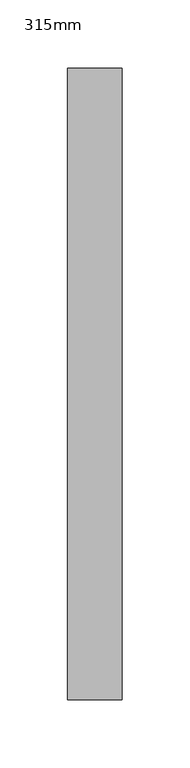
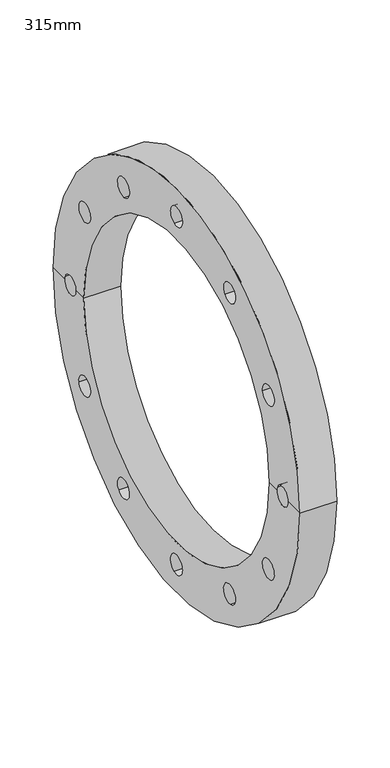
"""IFC4 building model written with IfcOpenShell, lengths in millimetres: pipe fitting geometry, Durapipe_PipeFitting_PVC_BackingFlange : 315mm."""

from ifc_helpers import new_model, si_unit, frame, origin, place, context, project, spatial, polyline, circle_curve, source, transform, mapped, element, save
from ifc_brep_helpers import plane_surface, cylinder_surface, revolved_surface, advanced_brep


def pipe_fitting_315mm_d6d34c67(model_context):
    return source(origin(), model_context, "Body", "AdvancedBrep", [
        advanced_brep(
        [(-20.0, 232.5, 0.0), (20.0, 232.5, 0.0), (20.0, -232.5, 0.0), (-20.0, -232.5, 0.0), (-20.0, -210.6997363, 0.0), (-20.0, -209.8610974, -4.2874372), (-20.0, -188.7002361, 0.0), (-20.0, -174.5, 0.0), (-20.0, 174.5, 0.0), (-20.0, 188.7002361, 0.0), (-20.0, 189.538875, -4.1391443), (-20.0, 210.6997363, 0.0), (-20.0, 4.2874372, -209.8610974), (-20.0, -4.1391443, -189.538875), (-20.0, 108.6435782, -179.6013231), (-20.0, 91.1848334, -166.215053), (-20.0, -101.2175192, -183.8887602), (-20.0, -98.3540417, -162.0759086), (-20.0, 183.8887602, -101.2175192), (-20.0, 162.0759086, -98.3540417), (-20.0, -179.6013231, -108.6435782), (-20.0, -166.215053, -91.1848334), (-20.0, 209.8610974, 4.2874372), (-20.0, -189.538875, 4.1391443), (-20.0, 179.6013231, 108.6435782), (-20.0, 166.215053, 91.1848334), (-20.0, 101.2175192, 183.8887602), (-20.0, 98.3540417, 162.0759086), (-20.0, -4.2874372, 209.8610974), (-20.0, 4.1391443, 189.538875), (-20.0, -108.6435782, 179.6013231), (-20.0, -91.1848334, 166.215053), (-20.0, -183.8887602, 101.2175192), (-20.0, -162.0759086, 98.3540417), (20.0, 174.5, 0.0), (20.0, -174.5, 0.0), (20.0, -188.7002361, 0.0), (20.0, -209.8610974, -4.2874372), (20.0, -210.6997363, 0.0), (20.0, 210.6997363, 0.0), (20.0, 189.538875, -4.1391443), (20.0, 188.7002361, 0.0), (20.0, -4.1391443, -189.538875), (20.0, 4.2874372, -209.8610974), (20.0, 91.1848334, -166.215053), (20.0, 108.6435782, -179.6013231), (20.0, -98.3540417, -162.0759086), (20.0, -101.2175192, -183.8887602), (20.0, 162.0759086, -98.3540417), (20.0, 183.8887602, -101.2175192), (20.0, -166.215053, -91.1848334), (20.0, -179.6013231, -108.6435782), (20.0, 209.8610974, 4.2874372), (20.0, -189.538875, 4.1391443), (20.0, 166.215053, 91.1848334), (20.0, 179.6013231, 108.6435782), (20.0, 98.3540417, 162.0759086), (20.0, 101.2175192, 183.8887602), (20.0, 4.1391443, 189.538875), (20.0, -4.2874372, 209.8610974), (20.0, -91.1848334, 166.215053), (20.0, -108.6435782, 179.6013231), (20.0, -162.0759086, 98.3540417), (20.0, -183.8887602, 101.2175192)],
        [
            (0, 1),
            (1, 2, circle_curve(frame((20.0, 0.0, 0.0), z_axis=(-1.0, 0.0, 0.0), x_axis=(0.0, 1.0, 0.0)), 232.5)),
            (2, 3),
            (3, 0, circle_curve(frame((-20.0, 0.0, 0.0), z_axis=(1.0, 0.0, 0.0), x_axis=(0.0, 1.0, 0.0)), 232.5)),
            (0, 3, circle_curve(frame((-20.0, 0.0, 0.0), z_axis=(1.0, 0.0, 0.0), x_axis=(0.0, 1.0, 0.0)), 232.5)),
            (2, 1, circle_curve(frame((20.0, 0.0, 0.0), z_axis=(-1.0, 0.0, 0.0), x_axis=(0.0, 1.0, 0.0)), 232.5)),
            (3, 4),
            (4, 5, circle_curve(frame((-20.0, -199.6999862, -0.0741464), z_axis=(1.0, 0.0, 0.0), x_axis=(0.0, -0.9237373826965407, -0.38302643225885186)), 11.0)),
            (5, 6, circle_curve(frame((-20.0, -199.6999862, -0.0741464), z_axis=(1.0, 0.0, 0.0), x_axis=(0.0, -0.9237373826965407, -0.38302643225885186)), 11.0)),
            (6, 7),
            (7, 8, circle_curve(frame((-20.0, 0.0, 0.0), z_axis=(1.0, 0.0, 0.0), x_axis=(0.0, 1.0, 0.0)), 174.5)),
            (8, 9),
            (9, 10, circle_curve(frame((-20.0, 199.6999862, 0.0741464), z_axis=(1.0, 0.0, 0.0), x_axis=(0.0, 0.9237373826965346, 0.3830264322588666)), 11.0)),
            (10, 11, circle_curve(frame((-20.0, 199.6999862, 0.0741464), z_axis=(1.0, 0.0, 0.0), x_axis=(0.0, 0.9237373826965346, 0.3830264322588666)), 11.0)),
            (11, 0),
            (12, 13, circle_curve(frame((-20.0, 0.0741464, -199.6999862), z_axis=(1.0, 0.0, 0.0), x_axis=(0.0, 0.3830264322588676, -0.9237373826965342)), 11.0)),
            (13, 12, circle_curve(frame((-20.0, 0.0741464, -199.6999862), z_axis=(1.0, 0.0, 0.0), x_axis=(0.0, 0.3830264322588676, -0.9237373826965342)), 11.0)),
            (14, 15, circle_curve(frame((-20.0, 99.9142058, -172.908188), z_axis=(1.0, 0.0, 0.0), x_axis=(0.0, 0.7935793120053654, -0.6084668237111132)), 11.0)),
            (15, 14, circle_curve(frame((-20.0, 99.9142058, -172.908188), z_axis=(1.0, 0.0, 0.0), x_axis=(0.0, 0.7935793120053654, -0.6084668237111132)), 11.0)),
            (16, 17, circle_curve(frame((-20.0, -99.7857804, -172.9823344), z_axis=(1.0, 0.0, 0.0), x_axis=(0.0, -0.13015807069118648, -0.991493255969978)), 11.0)),
            (17, 16, circle_curve(frame((-20.0, -99.7857804, -172.9823344), z_axis=(1.0, 0.0, 0.0), x_axis=(0.0, -0.13015807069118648, -0.991493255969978)), 11.0)),
            (18, 19, circle_curve(frame((-20.0, 172.9823344, -99.7857804), z_axis=(1.0, 0.0, 0.0), x_axis=(0.0, 0.9914932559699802, -0.13015807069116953)), 11.0)),
            (19, 18, circle_curve(frame((-20.0, 172.9823344, -99.7857804), z_axis=(1.0, 0.0, 0.0), x_axis=(0.0, 0.9914932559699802, -0.13015807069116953)), 11.0)),
            (20, 21, circle_curve(frame((-20.0, -172.908188, -99.9142058), z_axis=(1.0, 0.0, 0.0), x_axis=(0.0, -0.6084668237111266, -0.7935793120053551)), 11.0)),
            (21, 20, circle_curve(frame((-20.0, -172.908188, -99.9142058), z_axis=(1.0, 0.0, 0.0), x_axis=(0.0, -0.6084668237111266, -0.7935793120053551)), 11.0)),
            (11, 22, circle_curve(frame((-20.0, 199.6999862, 0.0741464), z_axis=(1.0, 0.0, 0.0), x_axis=(0.0, 0.9237373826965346, 0.3830264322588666)), 11.0)),
            (22, 9, circle_curve(frame((-20.0, 199.6999862, 0.0741464), z_axis=(1.0, 0.0, 0.0), x_axis=(0.0, 0.9237373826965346, 0.3830264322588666)), 11.0)),
            (8, 7, circle_curve(frame((-20.0, 0.0, 0.0), z_axis=(1.0, 0.0, 0.0), x_axis=(0.0, 1.0, 0.0)), 174.5)),
            (6, 23, circle_curve(frame((-20.0, -199.6999862, -0.0741464), z_axis=(1.0, 0.0, 0.0), x_axis=(0.0, -0.9237373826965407, -0.38302643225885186)), 11.0)),
            (23, 4, circle_curve(frame((-20.0, -199.6999862, -0.0741464), z_axis=(1.0, 0.0, 0.0), x_axis=(0.0, -0.9237373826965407, -0.38302643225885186)), 11.0)),
            (24, 25, circle_curve(frame((-20.0, 172.908188, 99.9142058), z_axis=(1.0, 0.0, 0.0), x_axis=(0.0, 0.6084668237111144, 0.7935793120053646)), 11.0)),
            (25, 24, circle_curve(frame((-20.0, 172.908188, 99.9142058), z_axis=(1.0, 0.0, 0.0), x_axis=(0.0, 0.6084668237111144, 0.7935793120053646)), 11.0)),
            (26, 27, circle_curve(frame((-20.0, 99.7857804, 172.9823344), z_axis=(1.0, 0.0, 0.0), x_axis=(0.0, 0.1301580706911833, 0.9914932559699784)), 11.0)),
            (27, 26, circle_curve(frame((-20.0, 99.7857804, 172.9823344), z_axis=(1.0, 0.0, 0.0), x_axis=(0.0, 0.1301580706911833, 0.9914932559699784)), 11.0)),
            (28, 29, circle_curve(frame((-20.0, -0.0741464, 199.6999862), z_axis=(1.0, 0.0, 0.0), x_axis=(0.0, -0.3830264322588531, 0.9237373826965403)), 11.0)),
            (29, 28, circle_curve(frame((-20.0, -0.0741464, 199.6999862), z_axis=(1.0, 0.0, 0.0), x_axis=(0.0, -0.3830264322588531, 0.9237373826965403)), 11.0)),
            (30, 31, circle_curve(frame((-20.0, -99.9142058, 172.908188), z_axis=(1.0, 0.0, 0.0), x_axis=(0.0, -0.7935793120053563, 0.6084668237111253)), 11.0)),
            (31, 30, circle_curve(frame((-20.0, -99.9142058, 172.908188), z_axis=(1.0, 0.0, 0.0), x_axis=(0.0, -0.7935793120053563, 0.6084668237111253)), 11.0)),
            (32, 33, circle_curve(frame((-20.0, -172.9823344, 99.7857804), z_axis=(1.0, 0.0, 0.0), x_axis=(0.0, -0.9914932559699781, 0.13015807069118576)), 11.0)),
            (33, 32, circle_curve(frame((-20.0, -172.9823344, 99.7857804), z_axis=(1.0, 0.0, 0.0), x_axis=(0.0, -0.9914932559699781, 0.13015807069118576)), 11.0)),
            (34, 8),
            (7, 35),
            (35, 34, circle_curve(frame((20.0, 0.0, 0.0), z_axis=(1.0, 0.0, 0.0), x_axis=(0.0, 1.0, 0.0)), 174.5)),
            (34, 35, circle_curve(frame((20.0, 0.0, 0.0), z_axis=(1.0, 0.0, 0.0), x_axis=(0.0, 1.0, 0.0)), 174.5)),
            (35, 36),
            (36, 37, circle_curve(frame((20.0, -199.6999862, -0.0741464), z_axis=(-1.0, 0.0, 0.0), x_axis=(0.0, -0.9237373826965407, -0.38302643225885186)), 11.0)),
            (37, 38, circle_curve(frame((20.0, -199.6999862, -0.0741464), z_axis=(-1.0, 0.0, 0.0), x_axis=(0.0, -0.9237373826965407, -0.38302643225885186)), 11.0)),
            (38, 2),
            (1, 39),
            (39, 40, circle_curve(frame((20.0, 199.6999862, 0.0741464), z_axis=(-1.0, 0.0, 0.0), x_axis=(0.0, 0.9237373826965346, 0.3830264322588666)), 11.0)),
            (40, 41, circle_curve(frame((20.0, 199.6999862, 0.0741464), z_axis=(-1.0, 0.0, 0.0), x_axis=(0.0, 0.9237373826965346, 0.3830264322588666)), 11.0)),
            (41, 34),
            (42, 43, circle_curve(frame((20.0, 0.0741464, -199.6999862), z_axis=(-1.0, 0.0, 0.0), x_axis=(0.0, 0.3830264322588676, -0.9237373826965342)), 11.0)),
            (43, 42, circle_curve(frame((20.0, 0.0741464, -199.6999862), z_axis=(-1.0, 0.0, 0.0), x_axis=(0.0, 0.3830264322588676, -0.9237373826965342)), 11.0)),
            (44, 45, circle_curve(frame((20.0, 99.9142058, -172.908188), z_axis=(-1.0, 0.0, 0.0), x_axis=(0.0, 0.7935793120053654, -0.6084668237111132)), 11.0)),
            (45, 44, circle_curve(frame((20.0, 99.9142058, -172.908188), z_axis=(-1.0, 0.0, 0.0), x_axis=(0.0, 0.7935793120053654, -0.6084668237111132)), 11.0)),
            (46, 47, circle_curve(frame((20.0, -99.7857804, -172.9823344), z_axis=(-1.0, 0.0, 0.0), x_axis=(0.0, -0.13015807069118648, -0.991493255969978)), 11.0)),
            (47, 46, circle_curve(frame((20.0, -99.7857804, -172.9823344), z_axis=(-1.0, 0.0, 0.0), x_axis=(0.0, -0.13015807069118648, -0.991493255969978)), 11.0)),
            (48, 49, circle_curve(frame((20.0, 172.9823344, -99.7857804), z_axis=(-1.0, 0.0, 0.0), x_axis=(0.0, 0.9914932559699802, -0.13015807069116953)), 11.0)),
            (49, 48, circle_curve(frame((20.0, 172.9823344, -99.7857804), z_axis=(-1.0, 0.0, 0.0), x_axis=(0.0, 0.9914932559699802, -0.13015807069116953)), 11.0)),
            (50, 51, circle_curve(frame((20.0, -172.908188, -99.9142058), z_axis=(-1.0, 0.0, 0.0), x_axis=(0.0, -0.6084668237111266, -0.7935793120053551)), 11.0)),
            (51, 50, circle_curve(frame((20.0, -172.908188, -99.9142058), z_axis=(-1.0, 0.0, 0.0), x_axis=(0.0, -0.6084668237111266, -0.7935793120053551)), 11.0)),
            (41, 52, circle_curve(frame((20.0, 199.6999862, 0.0741464), z_axis=(-1.0, 0.0, 0.0), x_axis=(0.0, 0.9237373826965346, 0.3830264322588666)), 11.0)),
            (52, 39, circle_curve(frame((20.0, 199.6999862, 0.0741464), z_axis=(-1.0, 0.0, 0.0), x_axis=(0.0, 0.9237373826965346, 0.3830264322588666)), 11.0)),
            (38, 53, circle_curve(frame((20.0, -199.6999862, -0.0741464), z_axis=(-1.0, 0.0, 0.0), x_axis=(0.0, -0.9237373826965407, -0.38302643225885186)), 11.0)),
            (53, 36, circle_curve(frame((20.0, -199.6999862, -0.0741464), z_axis=(-1.0, 0.0, 0.0), x_axis=(0.0, -0.9237373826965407, -0.38302643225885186)), 11.0)),
            (54, 55, circle_curve(frame((20.0, 172.908188, 99.9142058), z_axis=(-1.0, 0.0, 0.0), x_axis=(0.0, 0.6084668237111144, 0.7935793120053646)), 11.0)),
            (55, 54, circle_curve(frame((20.0, 172.908188, 99.9142058), z_axis=(-1.0, 0.0, 0.0), x_axis=(0.0, 0.6084668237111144, 0.7935793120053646)), 11.0)),
            (56, 57, circle_curve(frame((20.0, 99.7857804, 172.9823344), z_axis=(-1.0, 0.0, 0.0), x_axis=(0.0, 0.1301580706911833, 0.9914932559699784)), 11.0)),
            (57, 56, circle_curve(frame((20.0, 99.7857804, 172.9823344), z_axis=(-1.0, 0.0, 0.0), x_axis=(0.0, 0.1301580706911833, 0.9914932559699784)), 11.0)),
            (58, 59, circle_curve(frame((20.0, -0.0741464, 199.6999862), z_axis=(-1.0, 0.0, 0.0), x_axis=(0.0, -0.3830264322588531, 0.9237373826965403)), 11.0)),
            (59, 58, circle_curve(frame((20.0, -0.0741464, 199.6999862), z_axis=(-1.0, 0.0, 0.0), x_axis=(0.0, -0.3830264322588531, 0.9237373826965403)), 11.0)),
            (60, 61, circle_curve(frame((20.0, -99.9142058, 172.908188), z_axis=(-1.0, 0.0, 0.0), x_axis=(0.0, -0.7935793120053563, 0.6084668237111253)), 11.0)),
            (61, 60, circle_curve(frame((20.0, -99.9142058, 172.908188), z_axis=(-1.0, 0.0, 0.0), x_axis=(0.0, -0.7935793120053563, 0.6084668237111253)), 11.0)),
            (62, 63, circle_curve(frame((20.0, -172.9823344, 99.7857804), z_axis=(-1.0, 0.0, 0.0), x_axis=(0.0, -0.9914932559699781, 0.13015807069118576)), 11.0)),
            (63, 62, circle_curve(frame((20.0, -172.9823344, 99.7857804), z_axis=(-1.0, 0.0, 0.0), x_axis=(0.0, -0.9914932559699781, 0.13015807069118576)), 11.0)),
            (46, 17),
            (16, 47),
            (42, 13),
            (12, 43),
            (44, 15),
            (14, 45),
            (48, 19),
            (18, 49),
            (40, 10),
            (22, 52),
            (54, 25),
            (24, 55),
            (56, 27),
            (26, 57),
            (58, 29),
            (28, 59),
            (60, 31),
            (30, 61),
            (62, 33),
            (32, 63),
            (53, 23),
            (5, 37),
            (50, 21),
            (20, 51),
        ],
        [
            cylinder_surface(frame((-38.7738734, 0.0, 0.0), z_axis=(-1.0, 0.0, 0.0), x_axis=(0.0, 1.0, 0.0)), 232.5),
            plane_surface(frame((-20.0, 0.0, 0.0), z_axis=(-1.0, 0.0, 0.0), x_axis=(0.0, 1.0, 0.0))),
            revolved_surface(polyline([(-20.0, 174.5, 0.0), (20.0, 174.5, 0.0)]), (-38.7738734, 0.0, 0.0), (-1.0, 0.0, 0.0)),
            plane_surface(frame((20.0, 0.0, 0.0), z_axis=(1.0, 0.0, 0.0), x_axis=(0.0, 1.0, 0.0))),
            revolved_surface(polyline([(-20.0, -101.21751917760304, -183.88876021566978), (20.0, -101.21751917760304, -183.88876021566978)]), (30.0, -99.7857804, -172.9823344), (-1.0, 0.0, 0.0)),
            revolved_surface(polyline([(-20.00000000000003, 4.287437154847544, -209.86109740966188), (19.999999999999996, 4.287437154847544, -209.86109740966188)]), (30.0, 0.0741464, -199.6999862), (-1.0000000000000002, 0.0, 0.0)),
            revolved_surface(polyline([(-19.99999999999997, 108.64357823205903, -179.60132306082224), (20.000000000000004, 108.64357823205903, -179.60132306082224)]), (30.0, 99.9142058, -172.908188), (-0.9999999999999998, 0.0, 0.0)),
            revolved_surface(polyline([(-20.00000000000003, 183.8887602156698, -101.21751917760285), (19.999999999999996, 183.8887602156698, -101.21751917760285)]), (30.0, 172.9823344, -99.7857804), (-1.0000000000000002, 0.0, 0.0)),
            revolved_surface(polyline([(-20.00000000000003, 209.86109740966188, 4.287437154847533), (19.999999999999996, 209.86109740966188, 4.287437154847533)]), (30.0, 199.6999862, 0.0741464), (-1.0000000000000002, 0.0, 0.0)),
            revolved_surface(polyline([(-20.0, 179.60132306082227, 108.64357823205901), (20.0, 179.60132306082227, 108.64357823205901)]), (30.0, 172.908188, 99.9142058), (-1.0, 0.0, 0.0)),
            revolved_surface(polyline([(-20.00000000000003, 101.21751917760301, 183.88876021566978), (19.999999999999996, 101.21751917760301, 183.88876021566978)]), (30.0, 99.7857804, 172.9823344), (-1.0000000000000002, 0.0, 0.0)),
            revolved_surface(polyline([(-20.00000000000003, -4.2874371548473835, 209.86109740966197), (19.999999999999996, -4.2874371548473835, 209.86109740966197)]), (30.0, -0.0741464, 199.6999862), (-1.0000000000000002, 0.0, 0.0)),
            revolved_surface(polyline([(-20.0, -108.64357823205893, 179.60132306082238), (20.0, -108.64357823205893, 179.60132306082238)]), (30.0, -99.9142058, 172.908188), (-1.0, 0.0, 0.0)),
            revolved_surface(polyline([(-20.00000000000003, -183.88876021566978, 101.21751917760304), (19.999999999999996, -183.88876021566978, 101.21751917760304)]), (30.0, -172.9823344, 99.7857804), (-1.0000000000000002, 0.0, 0.0)),
            revolved_surface(polyline([(-20.00000000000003, -209.86109740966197, -4.28743715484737), (19.999999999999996, -209.86109740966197, -4.28743715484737)]), (30.0, -199.6999862, -0.0741464), (-1.0000000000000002, 0.0, 0.0)),
            revolved_surface(polyline([(-20.0, -179.60132306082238, -108.64357823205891), (20.0, -179.60132306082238, -108.64357823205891)]), (30.0, -172.908188, -99.9142058), (-1.0, 0.0, 0.0)),
        ],
        [
            (0, [[1, 2, 3, 4]]),
            (0, [[-1, 5, -3, 6]]),
            (1, [[-4, 7, 8, 9, 10, 11, 12, 13, 14, 15], [16, 17], [18, 19], [20, 21], [22, 23], [24, 25]]),
            (1, [[-5, -15, 26, 27, -12, 28, -10, 29, 30, -7], [31, 32], [33, 34], [35, 36], [37, 38], [39, 40]]),
            (2, [[41, -11, 42, 43]]),
            (2, [[-41, 44, -42, -28]]),
            (3, [[-43, 45, 46, 47, 48, -2, 49, 50, 51, 52], [53, 54], [55, 56], [57, 58], [59, 60], [61, 62]]),
            (3, [[-44, -52, 63, 64, -49, -6, -48, 65, 66, -45], [67, 68], [69, 70], [71, 72], [73, 74], [75, 76]]),
            (4, [[77, -20, 78, -57]]),
            (4, [[-77, -58, -78, -21]]),
            (5, [[79, -16, 80, -53]]),
            (5, [[-79, -54, -80, -17]]),
            (6, [[81, -18, 82, -55]]),
            (6, [[-81, -56, -82, -19]]),
            (7, [[83, -22, 84, -59]]),
            (7, [[-83, -60, -84, -23]]),
            (8, [[85, -13, -27, 86, -63, -51]]),
            (8, [[-85, -50, -64, -86, -26, -14]]),
            (9, [[87, -31, 88, -67]]),
            (9, [[-87, -68, -88, -32]]),
            (10, [[89, -33, 90, -69]]),
            (10, [[-89, -70, -90, -34]]),
            (11, [[91, -35, 92, -71]]),
            (11, [[-91, -72, -92, -36]]),
            (12, [[93, -37, 94, -73]]),
            (12, [[-93, -74, -94, -38]]),
            (13, [[95, -39, 96, -75]]),
            (13, [[-95, -76, -96, -40]]),
            (14, [[97, -29, -9, 98, -46, -66]]),
            (14, [[-97, -65, -47, -98, -8, -30]]),
            (15, [[99, -24, 100, -61]]),
            (15, [[-99, -62, -100, -25]]),
        ],
    ),
    ])


if __name__ == "__main__":
    model = new_model("IFC4")
    model_context = context("Model", 3, world=origin())
    ifc_project = project(units=[si_unit("LENGTHUNIT", "METRE", prefix="MILLI")], contexts=[model_context])
    site = spatial("IfcSite", under=ifc_project)
    building = spatial("IfcBuilding", under=site)
    placement = place(None, origin())
    pipe_fitting_315mm_shape = pipe_fitting_315mm_d6d34c67(model_context)
    element("IfcPipeFitting", 1, ObjectType="Durapipe_PipeFitting_PVC_BackingFlange : 315mm", at=placement, inside=building, context=model_context, shape_type="MappedRepresentation", body=[
        mapped(pipe_fitting_315mm_shape, transform((0.0, 0.0, 0.0), x_axis=(1.0, 0.0, 0.0), y_axis=(0.0, 1.0, 0.0), z_axis=(0.0, 0.0, 1.0))),
    ])
    save(model, "model.ifc")
